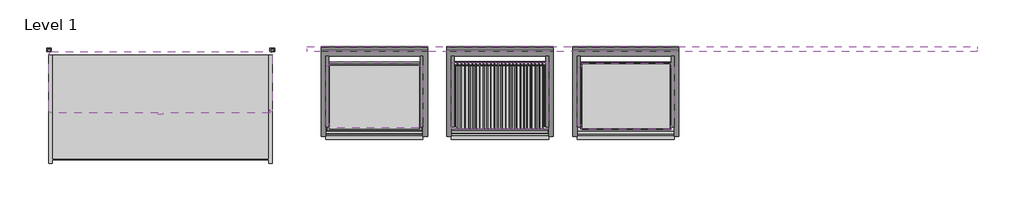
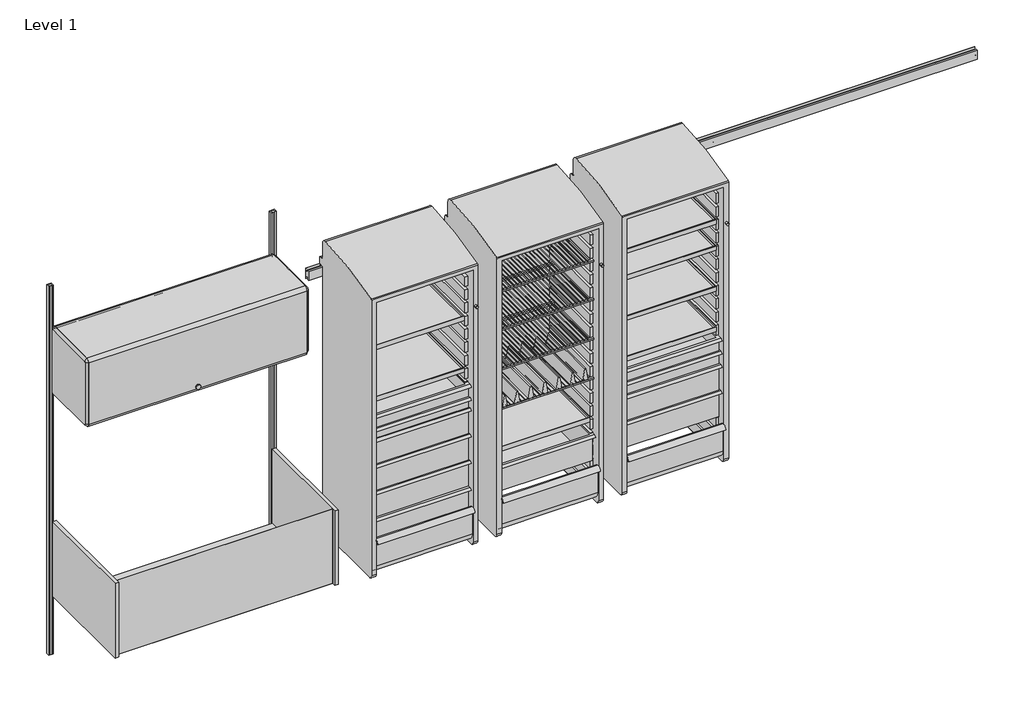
# One storey, incomplete: 31 furniture elements.
"""IFC4 building model written with IfcOpenShell, lengths in millimetres."""

from ifc_helpers import new_model, si_unit, origin, place, context, project, spatial, transform, mapped, element, save
from components import furniture_ea4a19f1, furniture_ac9ddba1, furniture_96cbcaf7, furniture_955c4189, furniture_14b667b5, furniture_1979b876, furniture_057a80fa, furniture_16c4bec0, furniture_f6e26599, furniture_6a9bea8c, furniture_0eaea0f9, furniture_83f72333, furniture_bfc73138, furniture_4fdc6e53, furniture_27da73ad, furniture_ea425779, a_3_2d132fd5, a_3_34f6b35d, a_3_9c7b58b7, a_3_76b2af0c, b_6_49bc5308, b_6_eadec2fb, b_6_fe23bc84, b_6_f31ca194, b_6_3d1a9f76, b_6_e21043c8, c_9_c2c7ca91, standard_144w_a9847ba4

model = new_model("IFC4")

# Units and contexts
model_context = context("Model", 3, world=origin())
ifc_project = project(units=[si_unit("LENGTHUNIT", "METRE", prefix="MILLI")], contexts=[model_context])

# Site, building, storey
site = spatial("IfcSite", under=ifc_project)
building = spatial("IfcBuilding", under=site)
storey = spatial("IfcBuildingStorey", under=building, Name="Level 1", Elevation=0.0)

# Furniture
placement = place(None, origin())
furniture_shape = furniture_ea4a19f1(model_context)
element("IfcFurniture", 1, ObjectType="HermanMiller_CoStruc_C2512_SinkModule : 18\"H x 24\"D x 48\"W", at=placement, inside=storey, context=model_context, shape_type="MappedRepresentation", body=[
    mapped(furniture_shape, transform((609.6, -206.375, 0.0), x_axis=(1.0, 0.0, 0.0), y_axis=(0.0, 1.0, 0.0), z_axis=(0.0, 0.0, 1.0))),
])
furniture_2_shape = furniture_ac9ddba1(model_context)
element("IfcFurniture", 2, ObjectType="HermanMiller_CoStruc_CO561_LockerWithTambourDoor : 66\"H x 20\"D x 22\"W Wlock", at=placement, inside=storey, context=model_context, shape_type="MappedRepresentation", body=[
    mapped(furniture_2_shape, transform((3148.0125, -236.5375, 0.0), x_axis=(1.0, 0.0, 0.0), y_axis=(0.0, 1.0, 0.0), z_axis=(0.0, 0.0, 1.0))),
])
element("IfcFurniture", 3, ObjectType="HermanMiller_CoStruc_CO561_LockerWithTambourDoor : 66\"H x 20\"D x 22\"W Wlock", at=placement, inside=storey, context=model_context, shape_type="MappedRepresentation", body=[
    mapped(furniture_2_shape, transform((2462.2125, -236.5375, 0.0), x_axis=(1.0, 0.0, 0.0), y_axis=(0.0, 1.0, 0.0), z_axis=(0.0, 0.0, 1.0))),
])
element("IfcFurniture", 4, ObjectType="HermanMiller_CoStruc_CO561_LockerWithTambourDoor : 66\"H x 20\"D x 22\"W Wlock", at=placement, inside=storey, context=model_context, shape_type="MappedRepresentation", body=[
    mapped(furniture_2_shape, transform((1776.4125, -236.5375, 0.0), x_axis=(1.0, 0.0, 0.0), y_axis=(0.0, 1.0, 0.0), z_axis=(0.0, 0.0, 1.0))),
])
furniture_3_shape = furniture_96cbcaf7(model_context)
element("IfcFurniture", 5, ObjectType="HermanMiller_ActionOffice_A3352_B-StyleFlipperDoorUnit : 15 1/2\"H x 13\"D x 48\"W", at=placement, inside=storey, context=model_context, shape_type="MappedRepresentation", body=[
    mapped(furniture_3_shape, transform((609.6, -200.025, 0.0), x_axis=(1.0, 0.0, 0.0), y_axis=(0.0, 1.0, 0.0), z_axis=(0.0, 0.0, 1.0))),
])
furniture_4_shape = furniture_955c4189(model_context)
element("IfcFurniture", 6, ObjectType="HermanMiller_CoStruc_CO252_CWireShelf : 14D x 20W", at=placement, inside=storey, context=model_context, shape_type="MappedRepresentation", body=[
    mapped(furniture_4_shape, transform((2462.27092, -259.62102, 0.0), x_axis=(1.0, 0.0, 0.0), y_axis=(0.0, 1.0, 0.0), z_axis=(0.0, 0.0, 1.0))),
])
furniture_5_shape = furniture_14b667b5(model_context)
element("IfcFurniture", 7, ObjectType="HermanMiller_CoStruc_CO252_CWireShelf : 14D x 20W", at=placement, inside=storey, context=model_context, shape_type="MappedRepresentation", body=[
    mapped(furniture_5_shape, transform((2462.27092, -259.62102, 0.0), x_axis=(1.0, 0.0, 0.0), y_axis=(0.0, 1.0, 0.0), z_axis=(0.0, 0.0, 1.0))),
])
furniture_6_shape = furniture_1979b876(model_context)
element("IfcFurniture", 8, ObjectType="HermanMiller_CoStruc_CO252_CWireShelf : 14D x 20W", at=placement, inside=storey, context=model_context, shape_type="MappedRepresentation", body=[
    mapped(furniture_6_shape, transform((2462.27092, -259.62102, 0.0), x_axis=(1.0, 0.0, 0.0), y_axis=(0.0, 1.0, 0.0), z_axis=(0.0, 0.0, 1.0))),
])
furniture_7_shape = furniture_057a80fa(model_context)
element("IfcFurniture", 9, ObjectType="HermanMiller_CoStruc_CO252_CWireShelf : 14D x 20W", at=placement, inside=storey, context=model_context, shape_type="MappedRepresentation", body=[
    mapped(furniture_7_shape, transform((2462.27092, -259.62102, 0.0), x_axis=(1.0, 0.0, 0.0), y_axis=(0.0, 1.0, 0.0), z_axis=(0.0, 0.0, 1.0))),
])
furniture_8_shape = furniture_16c4bec0(model_context)
element("IfcFurniture", 10, ObjectType="HermanMiller_CoStruc_CO203_CTrayShelf : 14\"D x 20\"W", at=placement, inside=storey, context=model_context, shape_type="MappedRepresentation", body=[
    mapped(furniture_8_shape, transform((3149.65842, -262.77062, 0.0), x_axis=(-1.0, 0.0, 0.0), y_axis=(0.0, -1.0, 0.0), z_axis=(0.0, 0.0, 1.0))),
])
furniture_9_shape = furniture_f6e26599(model_context)
element("IfcFurniture", 11, ObjectType="HermanMiller_CoStruc_CO203_CTrayShelf : 14\"D x 20\"W", at=placement, inside=storey, context=model_context, shape_type="MappedRepresentation", body=[
    mapped(furniture_9_shape, transform((3149.65842, -262.77062, 0.0), x_axis=(-1.0, 0.0, 0.0), y_axis=(0.0, -1.0, 0.0), z_axis=(0.0, 0.0, 1.0))),
])
furniture_10_shape = furniture_6a9bea8c(model_context)
element("IfcFurniture", 12, ObjectType="HermanMiller_CoStruc_CO203_CTrayShelf : 14\"D x 20\"W", at=placement, inside=storey, context=model_context, shape_type="MappedRepresentation", body=[
    mapped(furniture_10_shape, transform((3149.65842, -262.77062, 0.0), x_axis=(-1.0, 0.0, 0.0), y_axis=(0.0, -1.0, 0.0), z_axis=(0.0, 0.0, 1.0))),
])
furniture_11_shape = furniture_0eaea0f9(model_context)
element("IfcFurniture", 13, ObjectType="HermanMiller_CoStruc_CO203_CTrayShelf : 14\"D x 20\"W", at=placement, inside=storey, context=model_context, shape_type="MappedRepresentation", body=[
    mapped(furniture_11_shape, transform((3149.65842, -262.77062, 0.0), x_axis=(-1.0, 0.0, 0.0), y_axis=(0.0, -1.0, 0.0), z_axis=(0.0, 0.0, 1.0))),
])
furniture_12_shape = furniture_83f72333(model_context)
element("IfcFurniture", 14, ObjectType="HermanMiller_CoStruc_CO203_CTrayShelf : 14\"D x 20\"W", at=placement, inside=storey, context=model_context, shape_type="MappedRepresentation", body=[
    mapped(furniture_12_shape, transform((2460.45482, -258.03352, 0.0), x_axis=(-1.0, 0.0, 0.0), y_axis=(0.0, -1.0, 0.0), z_axis=(0.0, 0.0, 1.0))),
])
furniture_13_shape = furniture_bfc73138(model_context)
element("IfcFurniture", 15, ObjectType="HermanMiller_CoStruc_CO203_CTrayShelf : 14\"D x 20\"W", at=placement, inside=storey, context=model_context, shape_type="MappedRepresentation", body=[
    mapped(furniture_13_shape, transform((1776.47092, -256.42062, 0.0), x_axis=(1.0, 0.0, 0.0), y_axis=(0.0, 1.0, 0.0), z_axis=(0.0, 0.0, 1.0))),
])
furniture_14_shape = furniture_4fdc6e53(model_context)
element("IfcFurniture", 16, ObjectType="HermanMiller_CoStruc_CO203_CTrayShelf : 14\"D x 20\"W", at=placement, inside=storey, context=model_context, shape_type="MappedRepresentation", body=[
    mapped(furniture_14_shape, transform((1776.47092, -256.42062, 0.0), x_axis=(1.0, 0.0, 0.0), y_axis=(0.0, 1.0, 0.0), z_axis=(0.0, 0.0, 1.0))),
])
furniture_15_shape = furniture_27da73ad(model_context)
element("IfcFurniture", 17, ObjectType="HermanMiller_CoStruc_CO242_Subdivider Vane : 2 5/8\"Hx13 3/4\"D x 18 1/2\"W", at=placement, inside=storey, context=model_context, shape_type="MappedRepresentation", body=[
    mapped(furniture_15_shape, transform((2458.7999717, -268.76502, 0.0), x_axis=(1.0, 0.0, 0.0), y_axis=(0.0, 1.0, 0.0), z_axis=(0.0, 0.0, 1.0))),
])
furniture_16_shape = furniture_ea425779(model_context)
element("IfcFurniture", 18, ObjectType="HermanMiller_ActionOffice_AO213_WallStrip : 84\"H", at=placement, inside=storey, context=model_context, shape_type="MappedRepresentation", body=[
    mapped(furniture_16_shape, transform((1219.2, 0.0, 0.0), x_axis=(1.0, 0.0, 0.0), y_axis=(0.0, 1.0, 0.0), z_axis=(0.0, 0.0, 1.0))),
])
element("IfcFurniture", 19, ObjectType="HermanMiller_ActionOffice_AO213_WallStrip : 84\"H", at=placement, inside=storey, context=model_context, shape_type="MappedRepresentation", body=[
    mapped(furniture_16_shape, transform((0.0, 0.0, 0.0), x_axis=(1.0, 0.0, 0.0), y_axis=(0.0, 1.0, 0.0), z_axis=(0.0, 0.0, 1.0))),
])
a_3_shape = a_3_2d132fd5(model_context)
element("IfcFurniture", 20, ObjectType="HermanMiller_CoStruc_CO207_Drawer : A - 3", at=placement, inside=storey, context=model_context, shape_type="MappedRepresentation", body=[
    mapped(a_3_shape, transform((3148.0035717, -272.32102, 0.0), x_axis=(1.0, 0.0, 0.0), y_axis=(0.0, 1.0, 0.0), z_axis=(0.0, 0.0, 1.0))),
])
a_3_2_shape = a_3_34f6b35d(model_context)
element("IfcFurniture", 21, ObjectType="HermanMiller_CoStruc_CO207_Drawer : A - 3", at=placement, inside=storey, context=model_context, shape_type="MappedRepresentation", body=[
    mapped(a_3_2_shape, transform((3148.0035717, -272.32102, 0.0), x_axis=(1.0, 0.0, 0.0), y_axis=(0.0, 1.0, 0.0), z_axis=(0.0, 0.0, 1.0))),
])
a_3_3_shape = a_3_9c7b58b7(model_context)
element("IfcFurniture", 22, ObjectType="HermanMiller_CoStruc_CO207_Drawer : A - 3", at=placement, inside=storey, context=model_context, shape_type="MappedRepresentation", body=[
    mapped(a_3_3_shape, transform((1776.4035717, -272.32102, 0.0), x_axis=(1.0, 0.0, 0.0), y_axis=(0.0, 1.0, 0.0), z_axis=(0.0, 0.0, 1.0))),
])
a_3_4_shape = a_3_76b2af0c(model_context)
element("IfcFurniture", 23, ObjectType="HermanMiller_CoStruc_CO207_Drawer : A - 3", at=placement, inside=storey, context=model_context, shape_type="MappedRepresentation", body=[
    mapped(a_3_4_shape, transform((1776.4035717, -272.32102, 0.0), x_axis=(1.0, 0.0, 0.0), y_axis=(0.0, 1.0, 0.0), z_axis=(0.0, 0.0, 1.0))),
])
b_6_shape = b_6_49bc5308(model_context)
element("IfcFurniture", 24, ObjectType="HermanMiller_CoStruc_CO207_Drawer : B - 6", at=placement, inside=storey, context=model_context, shape_type="MappedRepresentation", body=[
    mapped(b_6_shape, transform((3148.0035717, -272.32102, 0.0), x_axis=(1.0, 0.0, 0.0), y_axis=(0.0, 1.0, 0.0), z_axis=(0.0, 0.0, 1.0))),
])
b_6_2_shape = b_6_eadec2fb(model_context)
element("IfcFurniture", 25, ObjectType="HermanMiller_CoStruc_CO207_Drawer : B - 6", at=placement, inside=storey, context=model_context, shape_type="MappedRepresentation", body=[
    mapped(b_6_2_shape, transform((3148.0035717, -272.32102, 0.0), x_axis=(1.0, 0.0, 0.0), y_axis=(0.0, 1.0, 0.0), z_axis=(0.0, 0.0, 1.0))),
])
b_6_3_shape = b_6_fe23bc84(model_context)
element("IfcFurniture", 26, ObjectType="HermanMiller_CoStruc_CO207_Drawer : B - 6", at=placement, inside=storey, context=model_context, shape_type="MappedRepresentation", body=[
    mapped(b_6_3_shape, transform((1776.4035717, -272.32102, 0.0), x_axis=(1.0, 0.0, 0.0), y_axis=(0.0, 1.0, 0.0), z_axis=(0.0, 0.0, 1.0))),
])
b_6_4_shape = b_6_f31ca194(model_context)
element("IfcFurniture", 27, ObjectType="HermanMiller_CoStruc_CO207_Drawer : B - 6", at=placement, inside=storey, context=model_context, shape_type="MappedRepresentation", body=[
    mapped(b_6_4_shape, transform((1776.4035717, -272.32102, 0.0), x_axis=(1.0, 0.0, 0.0), y_axis=(0.0, 1.0, 0.0), z_axis=(0.0, 0.0, 1.0))),
])
b_6_5_shape = b_6_3d1a9f76(model_context)
element("IfcFurniture", 28, ObjectType="HermanMiller_CoStruc_CO207_Drawer : B - 6", at=placement, inside=storey, context=model_context, shape_type="MappedRepresentation", body=[
    mapped(b_6_5_shape, transform((2458.7999717, -267.58392, 0.0), x_axis=(1.0, 0.0, 0.0), y_axis=(0.0, 1.0, 0.0), z_axis=(0.0, 0.0, 1.0))),
])
b_6_6_shape = b_6_e21043c8(model_context)
element("IfcFurniture", 29, ObjectType="HermanMiller_CoStruc_CO207_Drawer : B - 6", at=placement, inside=storey, context=model_context, shape_type="MappedRepresentation", body=[
    mapped(b_6_6_shape, transform((1776.4035717, -272.32102, 0.0), x_axis=(1.0, 0.0, 0.0), y_axis=(0.0, 1.0, 0.0), z_axis=(0.0, 0.0, 1.0))),
])
c_9_shape = c_9_c2c7ca91(model_context)
element("IfcFurniture", 30, ObjectType="HermanMiller_CoStruc_CO207_Drawer : C - 9", at=placement, inside=storey, context=model_context, shape_type="MappedRepresentation", body=[
    mapped(c_9_shape, transform((1776.4035717, -272.32102, 0.0), x_axis=(1.0, 0.0, 0.0), y_axis=(0.0, 1.0, 0.0), z_axis=(0.0, 0.0, 1.0))),
])
standard_144w_shape = standard_144w_a9847ba4(model_context)
element("IfcFurniture", 31, ObjectType="HermanMiller_CoStruc_CO282_StandardRail : Standard 144W", at=placement, inside=storey, context=model_context, shape_type="MappedRepresentation", body=[
    mapped(standard_144w_shape, transform((3305.8205525, 9.525, 0.0), x_axis=(1.0, 0.0, 0.0), y_axis=(0.0, 1.0, 0.0), z_axis=(0.0, 0.0, 1.0))),
])

save(model, "model.ifc")
